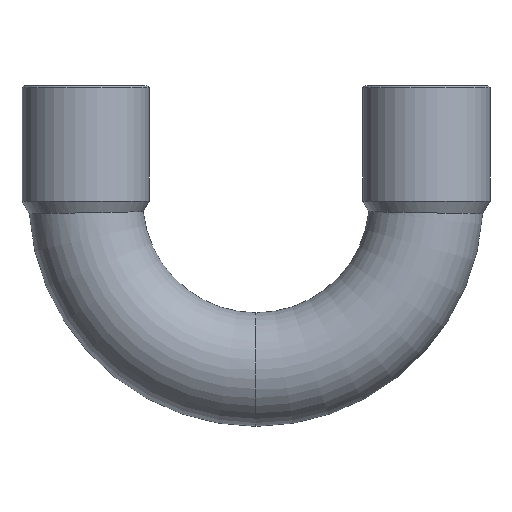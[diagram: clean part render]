
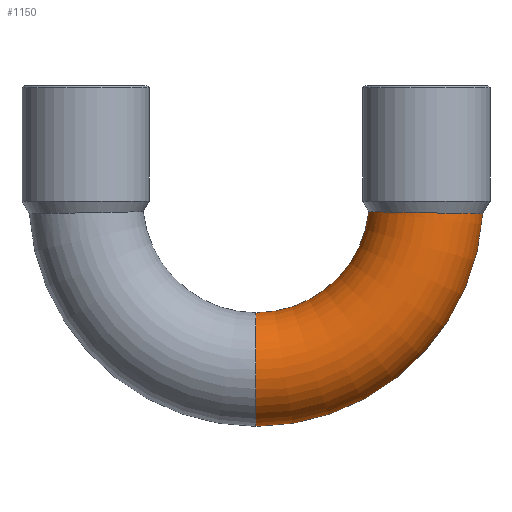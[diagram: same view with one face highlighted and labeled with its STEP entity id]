
A CAD part, front view. The second image highlights one B-rep face of the part: STEP entity #1150.
In plain terms, the highlighted toroidal (fillet/blend) face has major radius 15 mm and minor radius 5 mm.
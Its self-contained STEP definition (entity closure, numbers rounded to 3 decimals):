
#51=CARTESIAN_POINT('',(22.035,0.,-20.0));
#52=VERTEX_POINT('',#51);
#85=CARTESIAN_POINT('',(22.035,0.,-10.0));
#86=VERTEX_POINT('',#85);
#109=CARTESIAN_POINT('',(41.995,0.,-1.27));
#110=VERTEX_POINT('',#109);
#111=CARTESIAN_POINT('',(22.035,0.,0.0));
#112=DIRECTION('',(0.0,-1.0,0.0));
#113=DIRECTION('',(0.0,0.0,-1.0));
#114=AXIS2_PLACEMENT_3D('',#111,#112,#113);
#115=CIRCLE('',#114,20.0);
#116=EDGE_CURVE('',#52,#110,#115,.T.);
#119=CARTESIAN_POINT('',(31.975,0.,-1.096));
#120=VERTEX_POINT('',#119);
#121=CARTESIAN_POINT('',(22.035,0.,0.0));
#122=DIRECTION('',(0.0,1.0,0.0));
#123=DIRECTION('',(0.0,0.0,-1.0));
#124=AXIS2_PLACEMENT_3D('',#121,#122,#123);
#125=CIRCLE('',#124,10.0);
#126=EDGE_CURVE('',#120,#86,#125,.T.);
#1111=CARTESIAN_POINT('',(22.035,0.,0.0));
#1112=DIRECTION('',(0.0,-1.0,0.0));
#1113=DIRECTION('',(0.0,0.0,-1.0));
#1114=AXIS2_PLACEMENT_3D('',#1111,#1112,#1113);
#1115=TOROIDAL_SURFACE('',#1114,15.0,5.0);
#1116=ORIENTED_EDGE('',*,*,#116,.T.);
#1117=CARTESIAN_POINT('',(41.995,0.,-1.27));
#1118=CARTESIAN_POINT('',(41.995,-0.368,-1.27));
#1119=CARTESIAN_POINT('',(41.954,-0.736,-1.269));
#1120=CARTESIAN_POINT('',(41.792,-1.454,-1.267));
#1121=CARTESIAN_POINT('',(41.672,-1.804,-1.266));
#1122=CARTESIAN_POINT('',(41.236,-2.725,-1.261));
#1123=CARTESIAN_POINT('',(40.845,-3.254,-1.256));
#1124=CARTESIAN_POINT('',(39.881,-4.132,-1.243));
#1125=CARTESIAN_POINT('',(39.318,-4.473,-1.235));
#1126=CARTESIAN_POINT('',(38.091,-4.921,-1.217));
#1127=CARTESIAN_POINT('',(37.439,-5.022,-1.207));
#1128=CARTESIAN_POINT('',(36.132,-4.97,-1.185));
#1129=CARTESIAN_POINT('',(35.491,-4.816,-1.173));
#1130=CARTESIAN_POINT('',(34.303,-4.272,-1.15));
#1131=CARTESIAN_POINT('',(33.769,-3.887,-1.139));
#1132=CARTESIAN_POINT('',(32.879,-2.936,-1.118));
#1133=CARTESIAN_POINT('',(32.531,-2.38,-1.11));
#1134=CARTESIAN_POINT('',(32.085,-1.206,-1.099));
#1135=CARTESIAN_POINT('',(31.975,-0.605,-1.096));
#1136=CARTESIAN_POINT('',(31.975,0.,-1.096));
#1137=B_SPLINE_CURVE_WITH_KNOTS('',3,(#1117,#1118,#1119,#1120,#1121,#1122,#1123,#1124,#1125,#1126,#1127,#1128,#1129,#1130,#1131,#1132,#1133,#1134,#1135,#1136),.UNSPECIFIED.,.F.,.U.,(4,2,2,2,2,2,2,2,2,4),(-3.154,-3.044,-2.933,-2.738,-2.542,-2.346,-2.15,-1.954,-1.759,-1.577),.UNSPECIFIED.);
#1138=EDGE_CURVE('',#110,#120,#1137,.T.);
#1139=ORIENTED_EDGE('',*,*,#1138,.T.);
#1140=ORIENTED_EDGE('',*,*,#126,.T.);
#1141=CARTESIAN_POINT('',(22.035,0.,-15.0));
#1142=DIRECTION('',(-1.0,0.0,0.0));
#1143=DIRECTION('',(0.0,0.0,-1.0));
#1144=AXIS2_PLACEMENT_3D('',#1141,#1142,#1143);
#1145=CIRCLE('',#1144,5.0);
#1146=EDGE_CURVE('',#52,#86,#1145,.T.);
#1147=ORIENTED_EDGE('',*,*,#1146,.F.);
#1148=EDGE_LOOP('',(#1116,#1139,#1140,#1147));
#1149=FACE_OUTER_BOUND('',#1148,.T.);
#1150=ADVANCED_FACE('',(#1149),#1115,.T.);
